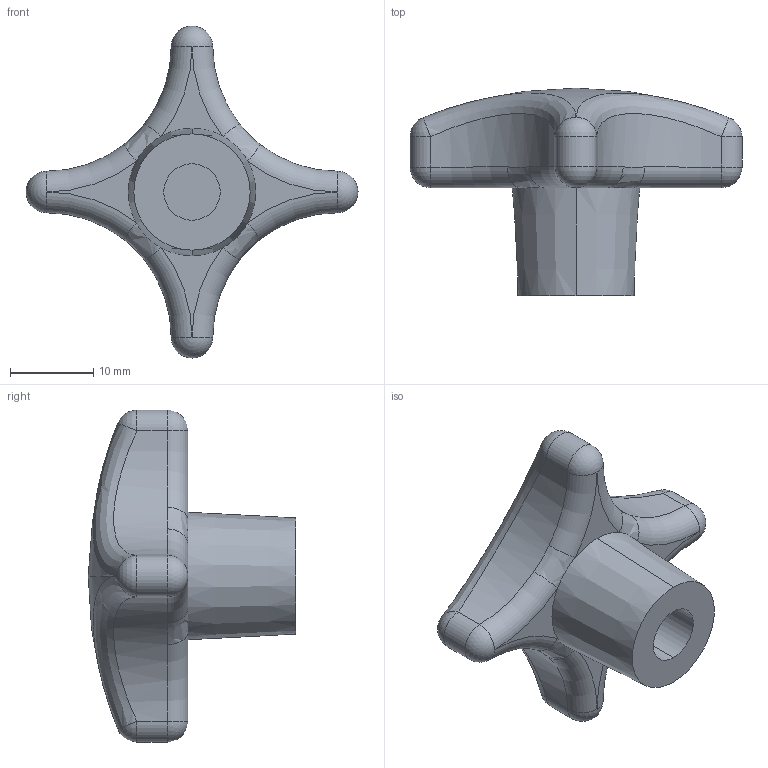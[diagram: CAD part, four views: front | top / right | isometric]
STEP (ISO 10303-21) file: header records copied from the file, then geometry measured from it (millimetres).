
FILE_DESCRIPTION (( 'STEP AP203' ), '1' );
FILE_NAME ('7000.W440.step', '2010-01-29T17:38:40', ( 'Wixroyd' ), ( 'Wixroyd' ), 'SwSTEP 2.0', 'SolidWorks 2009', '' );
FILE_SCHEMA (( 'CONFIG_CONTROL_DESIGN' ));
Length unit declared in the file: millimetre
Products named in the file (1): 7000.W440
Bounding box: 40 x 25 x 40 mm (x, y, z)
Volume: 7270.7 mm3; surface area: 3068.7 mm2
Topology: 1 solids, 1 shells, 45 faces, 97 edges, 51 vertices
Faces by surface type: cylinder 11, sphere 10, torus 8, bspline 8, plane 6, cone 2
Entity records: 4372 total; most frequent: CARTESIAN_POINT 3342, DIRECTION 225, ORIENTED_EDGE 186, AXIS2_PLACEMENT_3D 106, EDGE_CURVE 93, CIRCLE 68, VERTEX_POINT 51, EDGE_LOOP 46
